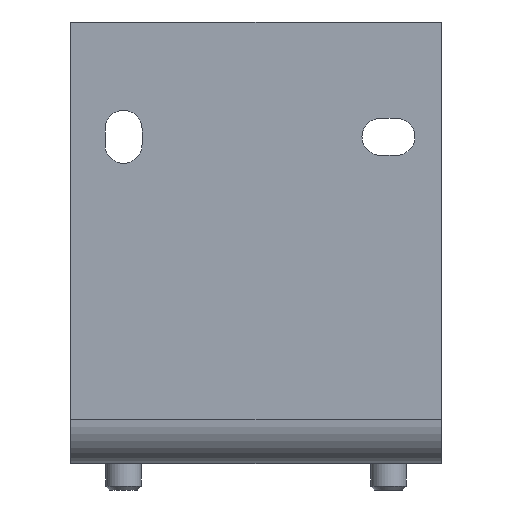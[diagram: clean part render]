
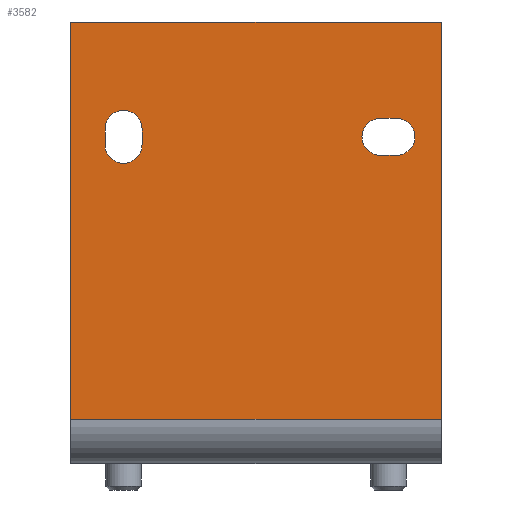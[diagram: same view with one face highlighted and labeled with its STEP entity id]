
A CAD part, front view. The second image highlights one B-rep face of the part: STEP entity #3582.
In plain terms, the highlighted planar face has unit normal (0, -1, 0).
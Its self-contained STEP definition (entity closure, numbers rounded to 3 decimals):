
#151=LINE('',#5120,#433);
#152=LINE('',#5122,#434);
#153=LINE('',#5124,#435);
#154=LINE('',#5125,#436);
#155=LINE('',#5130,#437);
#156=LINE('',#5133,#438);
#157=LINE('',#5138,#439);
#158=LINE('',#5141,#440);
#433=VECTOR('',#4175,42.);
#434=VECTOR('',#4176,45.);
#435=VECTOR('',#4177,42.);
#436=VECTOR('',#4178,45.);
#437=VECTOR('',#4181,1.8);
#438=VECTOR('',#4184,1.8);
#439=VECTOR('',#4187,1.8);
#440=VECTOR('',#4190,1.8);
#730=PLANE('',#3812);
#868=FACE_BOUND('',#1192,.T.);
#869=FACE_BOUND('',#1193,.T.);
#966=FACE_OUTER_BOUND('',#1191,.T.);
#1191=EDGE_LOOP('',(#2455,#2456,#2457,#2458));
#1192=EDGE_LOOP('',(#2459,#2460,#2461,#2462));
#1193=EDGE_LOOP('',(#2463,#2464,#2465,#2466));
#1492=CIRCLE('',#3813,2.1);
#1493=CIRCLE('',#3814,2.1);
#1494=CIRCLE('',#3815,2.1);
#1495=CIRCLE('',#3816,2.1);
#1615=VERTEX_POINT('',#5118);
#1616=VERTEX_POINT('',#5119);
#1617=VERTEX_POINT('',#5121);
#1618=VERTEX_POINT('',#5123);
#1619=VERTEX_POINT('',#5126);
#1620=VERTEX_POINT('',#5127);
#1621=VERTEX_POINT('',#5129);
#1622=VERTEX_POINT('',#5131);
#1623=VERTEX_POINT('',#5134);
#1624=VERTEX_POINT('',#5135);
#1625=VERTEX_POINT('',#5137);
#1626=VERTEX_POINT('',#5139);
#1972=EDGE_CURVE('',#1615,#1616,#151,.T.);
#1973=EDGE_CURVE('',#1615,#1617,#152,.T.);
#1974=EDGE_CURVE('',#1617,#1618,#153,.T.);
#1975=EDGE_CURVE('',#1616,#1618,#154,.T.);
#1976=EDGE_CURVE('',#1619,#1620,#1492,.T.);
#1977=EDGE_CURVE('',#1620,#1621,#155,.T.);
#1978=EDGE_CURVE('',#1621,#1622,#1493,.T.);
#1979=EDGE_CURVE('',#1622,#1619,#156,.T.);
#1980=EDGE_CURVE('',#1623,#1624,#1494,.T.);
#1981=EDGE_CURVE('',#1624,#1625,#157,.T.);
#1982=EDGE_CURVE('',#1625,#1626,#1495,.T.);
#1983=EDGE_CURVE('',#1626,#1623,#158,.T.);
#2455=ORIENTED_EDGE('',*,*,#1972,.F.);
#2456=ORIENTED_EDGE('',*,*,#1973,.T.);
#2457=ORIENTED_EDGE('',*,*,#1974,.T.);
#2458=ORIENTED_EDGE('',*,*,#1975,.F.);
#2459=ORIENTED_EDGE('',*,*,#1976,.T.);
#2460=ORIENTED_EDGE('',*,*,#1977,.T.);
#2461=ORIENTED_EDGE('',*,*,#1978,.T.);
#2462=ORIENTED_EDGE('',*,*,#1979,.T.);
#2463=ORIENTED_EDGE('',*,*,#1980,.T.);
#2464=ORIENTED_EDGE('',*,*,#1981,.T.);
#2465=ORIENTED_EDGE('',*,*,#1982,.T.);
#2466=ORIENTED_EDGE('',*,*,#1983,.T.);
#3582=ADVANCED_FACE('',(#966,#868,#869),#730,.T.);
#3812=AXIS2_PLACEMENT_3D('',#5117,#4173,#4174);
#3813=AXIS2_PLACEMENT_3D('',#5128,#4179,#4180);
#3814=AXIS2_PLACEMENT_3D('',#5132,#4182,#4183);
#3815=AXIS2_PLACEMENT_3D('',#5136,#4185,#4186);
#3816=AXIS2_PLACEMENT_3D('',#5140,#4188,#4189);
#4173=DIRECTION('center_axis',(0.,-1.,0.));
#4174=DIRECTION('ref_axis',(0.,0.,-1.));
#4175=DIRECTION('',(-1.,0.,0.));
#4176=DIRECTION('',(0.,0.,1.));
#4177=DIRECTION('',(-1.,0.,0.));
#4178=DIRECTION('',(0.,0.,1.));
#4179=DIRECTION('center_axis',(0.,1.,0.));
#4180=DIRECTION('ref_axis',(0.,0.,-1.));
#4181=DIRECTION('',(0.,0.,-1.));
#4182=DIRECTION('center_axis',(0.,1.,0.));
#4183=DIRECTION('ref_axis',(0.,0.,1.));
#4184=DIRECTION('',(0.,0.,1.));
#4185=DIRECTION('center_axis',(0.,1.,0.));
#4186=DIRECTION('ref_axis',(1.,0.,0.));
#4187=DIRECTION('',(1.,0.,0.));
#4188=DIRECTION('center_axis',(0.,1.,0.));
#4189=DIRECTION('ref_axis',(-1.,0.,0.));
#4190=DIRECTION('',(-1.,0.,0.));
#5117=CARTESIAN_POINT('Origin',(21.,-28.,0.));
#5118=CARTESIAN_POINT('',(21.,-28.,5.));
#5119=CARTESIAN_POINT('',(-21.,-28.,5.));
#5120=CARTESIAN_POINT('',(10.5,-28.,5.));
#5121=CARTESIAN_POINT('',(21.,-28.,50.));
#5122=CARTESIAN_POINT('',(21.,-28.,0.));
#5123=CARTESIAN_POINT('',(-21.,-28.,50.));
#5124=CARTESIAN_POINT('',(21.,-28.,50.));
#5125=CARTESIAN_POINT('',(-21.,-28.,0.));
#5126=CARTESIAN_POINT('',(-17.1,-28.,37.9));
#5127=CARTESIAN_POINT('',(-12.9,-28.,37.9));
#5128=CARTESIAN_POINT('Origin',(-15.,-28.,37.9));
#5129=CARTESIAN_POINT('',(-12.9,-28.,36.1));
#5130=CARTESIAN_POINT('',(-12.9,-28.,18.95));
#5131=CARTESIAN_POINT('',(-17.1,-28.,36.1));
#5132=CARTESIAN_POINT('Origin',(-15.,-28.,36.1));
#5133=CARTESIAN_POINT('',(-17.1,-28.,18.05));
#5134=CARTESIAN_POINT('',(14.1,-28.,34.9));
#5135=CARTESIAN_POINT('',(14.1,-28.,39.1));
#5136=CARTESIAN_POINT('Origin',(14.1,-28.,37.));
#5137=CARTESIAN_POINT('',(15.9,-28.,39.1));
#5138=CARTESIAN_POINT('',(17.55,-28.,39.1));
#5139=CARTESIAN_POINT('',(15.9,-28.,34.9));
#5140=CARTESIAN_POINT('Origin',(15.9,-28.,37.));
#5141=CARTESIAN_POINT('',(18.45,-28.,34.9));
